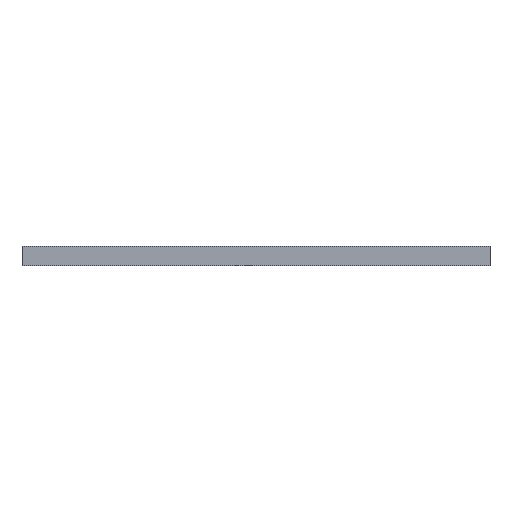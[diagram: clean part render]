
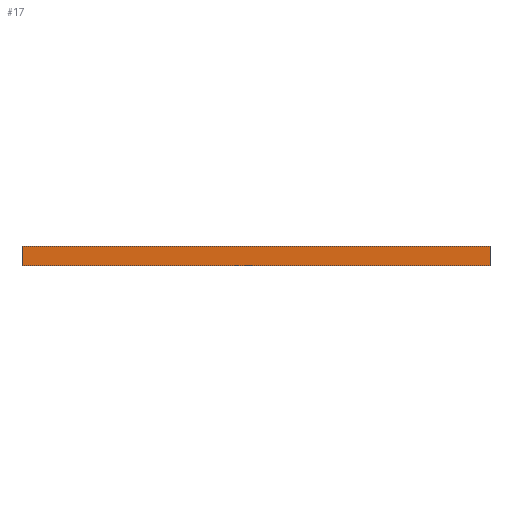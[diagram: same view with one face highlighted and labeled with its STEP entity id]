
A CAD part, left-side view. The second image highlights one B-rep face of the part: STEP entity #17.
In plain terms, the highlighted planar face has unit normal (-1, 0, 0).
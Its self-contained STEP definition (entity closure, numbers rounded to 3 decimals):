
#17 = ADVANCED_FACE('',(#18),#32,.F.);
#18 = FACE_BOUND('',#19,.F.);
#19 = EDGE_LOOP('',(#20,#55,#83,#111));
#20 = ORIENTED_EDGE('',*,*,#21,.F.);
#21 = EDGE_CURVE('',#22,#24,#26,.T.);
#22 = VERTEX_POINT('',#23);
#23 = CARTESIAN_POINT('',(0.,0.,0.));
#24 = VERTEX_POINT('',#25);
#25 = CARTESIAN_POINT('',(0.,0.,3.));
#26 = SURFACE_CURVE('',#27,(#31,#43),.PCURVE_S1.);
#27 = LINE('',#28,#29);
#28 = CARTESIAN_POINT('',(0.,0.,0.));
#29 = VECTOR('',#30,1.);
#30 = DIRECTION('',(0.,0.,1.));
#31 = PCURVE('',#32,#37);
#32 = PLANE('',#33);
#33 = AXIS2_PLACEMENT_3D('',#34,#35,#36);
#34 = CARTESIAN_POINT('',(0.,0.,0.));
#35 = DIRECTION('',(1.,0.,0.));
#36 = DIRECTION('',(0.,0.,1.));
#37 = DEFINITIONAL_REPRESENTATION('',(#38),#42);
#38 = LINE('',#39,#40);
#39 = CARTESIAN_POINT('',(0.,0.));
#40 = VECTOR('',#41,1.);
#41 = DIRECTION('',(1.,0.));
#42 = ( GEOMETRIC_REPRESENTATION_CONTEXT(2) 
PARAMETRIC_REPRESENTATION_CONTEXT() REPRESENTATION_CONTEXT('2D SPACE',''
  ) );
#43 = PCURVE('',#44,#49);
#44 = PLANE('',#45);
#45 = AXIS2_PLACEMENT_3D('',#46,#47,#48);
#46 = CARTESIAN_POINT('',(0.,0.,0.));
#47 = DIRECTION('',(0.,1.,0.));
#48 = DIRECTION('',(0.,0.,1.));
#49 = DEFINITIONAL_REPRESENTATION('',(#50),#54);
#50 = LINE('',#51,#52);
#51 = CARTESIAN_POINT('',(0.,0.));
#52 = VECTOR('',#53,1.);
#53 = DIRECTION('',(1.,0.));
#54 = ( GEOMETRIC_REPRESENTATION_CONTEXT(2) 
PARAMETRIC_REPRESENTATION_CONTEXT() REPRESENTATION_CONTEXT('2D SPACE',''
  ) );
#55 = ORIENTED_EDGE('',*,*,#56,.T.);
#56 = EDGE_CURVE('',#22,#57,#59,.T.);
#57 = VERTEX_POINT('',#58);
#58 = CARTESIAN_POINT('',(0.,72.,0.));
#59 = SURFACE_CURVE('',#60,(#64,#71),.PCURVE_S1.);
#60 = LINE('',#61,#62);
#61 = CARTESIAN_POINT('',(0.,0.,0.));
#62 = VECTOR('',#63,1.);
#63 = DIRECTION('',(0.,1.,0.));
#64 = PCURVE('',#32,#65);
#65 = DEFINITIONAL_REPRESENTATION('',(#66),#70);
#66 = LINE('',#67,#68);
#67 = CARTESIAN_POINT('',(0.,0.));
#68 = VECTOR('',#69,1.);
#69 = DIRECTION('',(0.,-1.));
#70 = ( GEOMETRIC_REPRESENTATION_CONTEXT(2) 
PARAMETRIC_REPRESENTATION_CONTEXT() REPRESENTATION_CONTEXT('2D SPACE',''
  ) );
#71 = PCURVE('',#72,#77);
#72 = PLANE('',#73);
#73 = AXIS2_PLACEMENT_3D('',#74,#75,#76);
#74 = CARTESIAN_POINT('',(0.,0.,0.));
#75 = DIRECTION('',(0.,0.,1.));
#76 = DIRECTION('',(1.,0.,0.));
#77 = DEFINITIONAL_REPRESENTATION('',(#78),#82);
#78 = LINE('',#79,#80);
#79 = CARTESIAN_POINT('',(0.,0.));
#80 = VECTOR('',#81,1.);
#81 = DIRECTION('',(0.,1.));
#82 = ( GEOMETRIC_REPRESENTATION_CONTEXT(2) 
PARAMETRIC_REPRESENTATION_CONTEXT() REPRESENTATION_CONTEXT('2D SPACE',''
  ) );
#83 = ORIENTED_EDGE('',*,*,#84,.T.);
#84 = EDGE_CURVE('',#57,#85,#87,.T.);
#85 = VERTEX_POINT('',#86);
#86 = CARTESIAN_POINT('',(0.,72.,3.));
#87 = SURFACE_CURVE('',#88,(#92,#99),.PCURVE_S1.);
#88 = LINE('',#89,#90);
#89 = CARTESIAN_POINT('',(0.,72.,0.));
#90 = VECTOR('',#91,1.);
#91 = DIRECTION('',(0.,0.,1.));
#92 = PCURVE('',#32,#93);
#93 = DEFINITIONAL_REPRESENTATION('',(#94),#98);
#94 = LINE('',#95,#96);
#95 = CARTESIAN_POINT('',(0.,-72.));
#96 = VECTOR('',#97,1.);
#97 = DIRECTION('',(1.,0.));
#98 = ( GEOMETRIC_REPRESENTATION_CONTEXT(2) 
PARAMETRIC_REPRESENTATION_CONTEXT() REPRESENTATION_CONTEXT('2D SPACE',''
  ) );
#99 = PCURVE('',#100,#105);
#100 = PLANE('',#101);
#101 = AXIS2_PLACEMENT_3D('',#102,#103,#104);
#102 = CARTESIAN_POINT('',(0.,72.,0.));
#103 = DIRECTION('',(0.,1.,0.));
#104 = DIRECTION('',(0.,0.,1.));
#105 = DEFINITIONAL_REPRESENTATION('',(#106),#110);
#106 = LINE('',#107,#108);
#107 = CARTESIAN_POINT('',(0.,0.));
#108 = VECTOR('',#109,1.);
#109 = DIRECTION('',(1.,0.));
#110 = ( GEOMETRIC_REPRESENTATION_CONTEXT(2) 
PARAMETRIC_REPRESENTATION_CONTEXT() REPRESENTATION_CONTEXT('2D SPACE',''
  ) );
#111 = ORIENTED_EDGE('',*,*,#112,.F.);
#112 = EDGE_CURVE('',#24,#85,#113,.T.);
#113 = SURFACE_CURVE('',#114,(#118,#125),.PCURVE_S1.);
#114 = LINE('',#115,#116);
#115 = CARTESIAN_POINT('',(0.,0.,3.));
#116 = VECTOR('',#117,1.);
#117 = DIRECTION('',(0.,1.,0.));
#118 = PCURVE('',#32,#119);
#119 = DEFINITIONAL_REPRESENTATION('',(#120),#124);
#120 = LINE('',#121,#122);
#121 = CARTESIAN_POINT('',(3.,0.));
#122 = VECTOR('',#123,1.);
#123 = DIRECTION('',(0.,-1.));
#124 = ( GEOMETRIC_REPRESENTATION_CONTEXT(2) 
PARAMETRIC_REPRESENTATION_CONTEXT() REPRESENTATION_CONTEXT('2D SPACE',''
  ) );
#125 = PCURVE('',#126,#131);
#126 = PLANE('',#127);
#127 = AXIS2_PLACEMENT_3D('',#128,#129,#130);
#128 = CARTESIAN_POINT('',(0.,0.,3.));
#129 = DIRECTION('',(0.,0.,1.));
#130 = DIRECTION('',(1.,0.,0.));
#131 = DEFINITIONAL_REPRESENTATION('',(#132),#136);
#132 = LINE('',#133,#134);
#133 = CARTESIAN_POINT('',(0.,0.));
#134 = VECTOR('',#135,1.);
#135 = DIRECTION('',(0.,1.));
#136 = ( GEOMETRIC_REPRESENTATION_CONTEXT(2) 
PARAMETRIC_REPRESENTATION_CONTEXT() REPRESENTATION_CONTEXT('2D SPACE',''
  ) );
